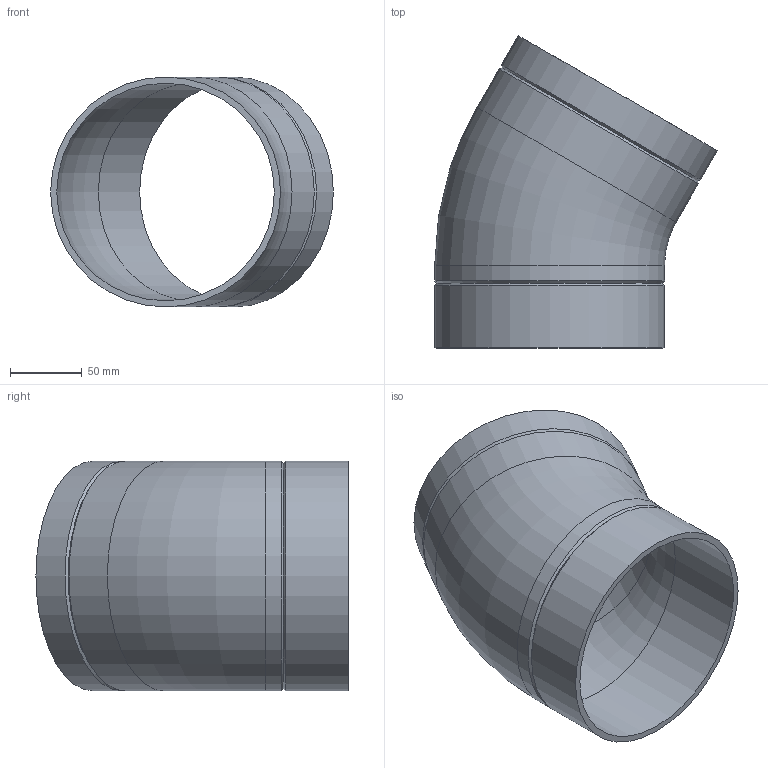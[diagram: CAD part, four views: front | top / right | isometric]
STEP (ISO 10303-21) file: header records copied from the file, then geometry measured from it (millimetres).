
FILE_DESCRIPTION(/* description */ (''),/* implementation_level */ '2;1');
FILE_NAME(/* name */ 'Z:\Geberit\Export\NewStep\PE Bogen Einzelteil_Ipart\stp\369030.stp',/* time_stamp */ '2014-04-02T11:55:52+02:00',/* author */ ('bruh'),/* organization */ (''),/* preprocessor_version */ 'ST-DEVELOPER v15.2',/* originating_system */ 'Autodesk Inventor 2014',/* authorisation */ '');
FILE_SCHEMA (('AUTOMOTIVE_DESIGN { 1 0 10303 214 3 1 1 }'));
Length unit declared in the file: millimetre
Products named in the file (1): 369030
Bounding box: 196.78 x 217.27 x 160 mm (x, y, z)
Volume: 393454 mm3; surface area: 189684.6 mm2
Topology: 1 solids, 1 shells, 14 faces, 28 edges, 16 vertices
Faces by surface type: cylinder 6, cone 4, torus 2, plane 2
Full cylindrical faces by diameter (mm): 151.4 x2, 160 x4
Entity records: 323 total; most frequent: DIRECTION 58, CARTESIAN_POINT 43, AXIS2_PLACEMENT_3D 29, EDGE_LOOP 28, ORIENTED_EDGE 28, FACE_BOUND 16, STYLED_ITEM 15, CIRCLE 14
